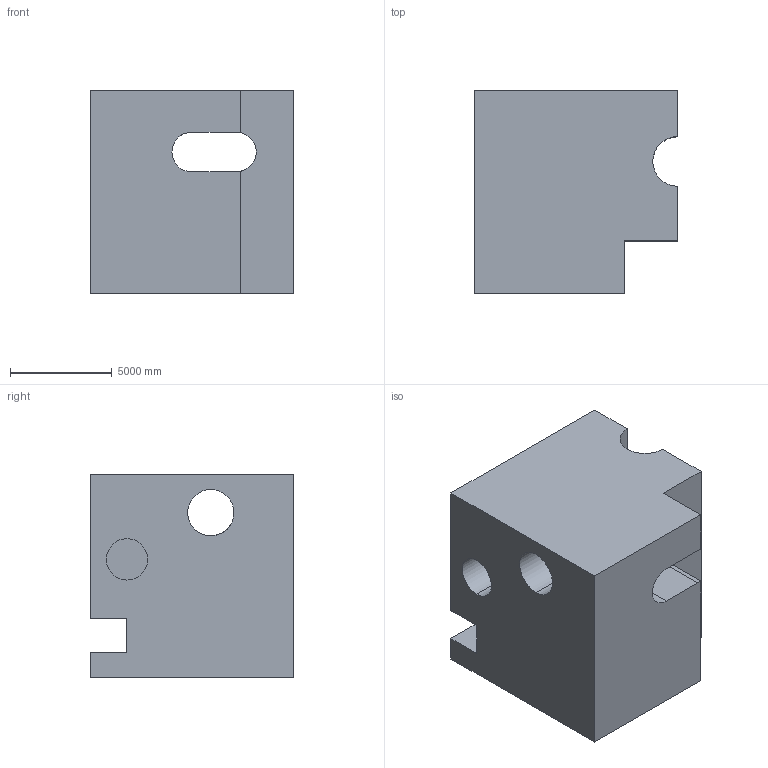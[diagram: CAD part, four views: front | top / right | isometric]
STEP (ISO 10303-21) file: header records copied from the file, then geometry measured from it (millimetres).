
FILE_DESCRIPTION (( 'STEP AP203' ), '1' );
FILE_NAME ('1520.STEP', '2022-08-18T15:00:33', ( 'user' ), ( '' ), 'SwSTEP 2.0', 'SolidWorks 2021', '' );
FILE_SCHEMA (( 'CONFIG_CONTROL_DESIGN' ));
Length unit declared in the file: centimetre
Products named in the file (1): 1520
Bounding box: 10000 x 10000 x 10000 mm (x, y, z)
Volume: 761427671080.3 mm3; surface area: 769144864.2 mm2
Topology: 1 solids, 1 shells, 25 faces, 75 edges, 50 vertices
Faces by surface type: plane 18, cylinder 7
Entity records: 1314 total; most frequent: CARTESIAN_POINT 539, ORIENTED_EDGE 150, DIRECTION 139, EDGE_CURVE 75, LINE 55, VECTOR 55, VERTEX_POINT 50, AXIS2_PLACEMENT_3D 42
